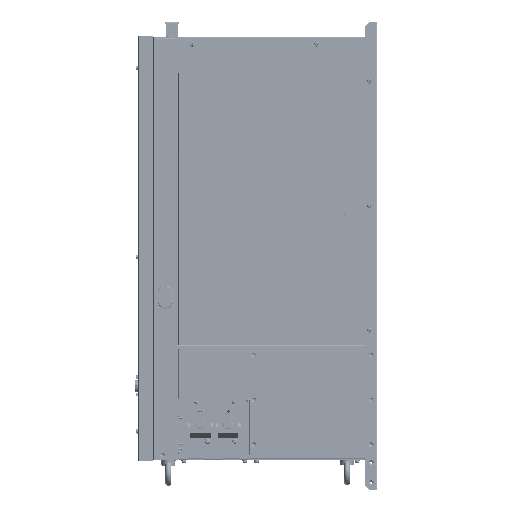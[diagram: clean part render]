
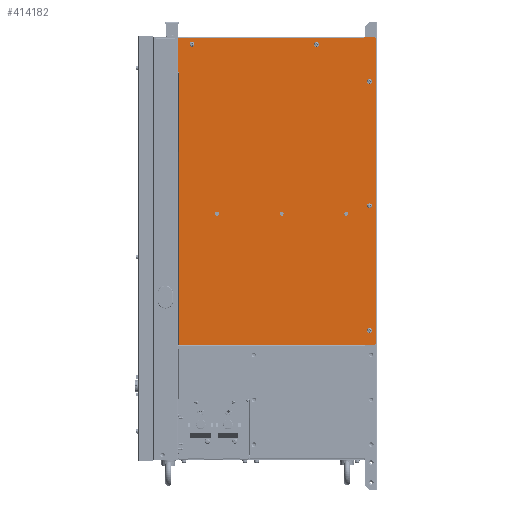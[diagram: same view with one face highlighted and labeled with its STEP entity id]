
A CAD part, left-side view. The second image highlights one B-rep face of the part: STEP entity #414182.
In plain terms, the highlighted planar face has unit normal (-1, 0, 0).
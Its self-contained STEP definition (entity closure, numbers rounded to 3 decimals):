
#23560=FACE_BOUND('',#68483,.T.);
#23561=FACE_BOUND('',#68484,.T.);
#23562=FACE_BOUND('',#68485,.T.);
#23563=FACE_BOUND('',#68486,.T.);
#23564=FACE_BOUND('',#68487,.T.);
#23565=FACE_BOUND('',#68488,.T.);
#23566=FACE_BOUND('',#68489,.T.);
#23567=FACE_BOUND('',#68490,.T.);
#43270=FACE_OUTER_BOUND('',#68482,.T.);
#68482=EDGE_LOOP('',(#361851,#361852,#361853,#361854,#361855,#361856,#361857,
#361858,#361859,#361860,#361861,#361862,#361863,#361864,#361865));
#68483=EDGE_LOOP('',(#361866));
#68484=EDGE_LOOP('',(#361867));
#68485=EDGE_LOOP('',(#361868));
#68486=EDGE_LOOP('',(#361869));
#68487=EDGE_LOOP('',(#361870));
#68488=EDGE_LOOP('',(#361871));
#68489=EDGE_LOOP('',(#361872));
#68490=EDGE_LOOP('',(#361873));
#110957=LINE('',#711854,#154372);
#110958=LINE('',#711856,#154373);
#110959=LINE('',#711858,#154374);
#110960=LINE('',#711860,#154375);
#110961=LINE('',#711862,#154376);
#110962=LINE('',#711866,#154377);
#110963=LINE('',#711868,#154378);
#110964=LINE('',#711870,#154379);
#110965=LINE('',#711873,#154380);
#110966=LINE('',#711875,#154381);
#110967=LINE('',#711879,#154382);
#110968=LINE('',#711880,#154383);
#154372=VECTOR('',#539482,4.243);
#154373=VECTOR('',#539483,613.3);
#154374=VECTOR('',#539484,4.243);
#154375=VECTOR('',#539485,20.5);
#154376=VECTOR('',#539486,0.75);
#154377=VECTOR('',#539489,372.95);
#154378=VECTOR('',#539490,68.5);
#154379=VECTOR('',#539491,0.75);
#154380=VECTOR('',#539494,547.05);
#154381=VECTOR('',#539495,371.45);
#154382=VECTOR('',#539498,0.75);
#154383=VECTOR('',#539499,20.5);
#166461=CIRCLE('',#444308,3.5);
#166462=CIRCLE('',#444310,0.75);
#166463=CIRCLE('',#444311,0.75);
#166464=CIRCLE('',#444312,0.75);
#166465=CIRCLE('',#444313,3.5);
#166466=CIRCLE('',#444314,3.5);
#166467=CIRCLE('',#444315,3.5);
#166468=CIRCLE('',#444316,3.5);
#166469=CIRCLE('',#444317,4.1);
#166470=CIRCLE('',#444318,4.1);
#166471=CIRCLE('',#444319,4.1);
#200504=VERTEX_POINT('',#711781);
#200532=VERTEX_POINT('',#711848);
#200533=VERTEX_POINT('',#711852);
#200534=VERTEX_POINT('',#711853);
#200535=VERTEX_POINT('',#711855);
#200536=VERTEX_POINT('',#711857);
#200537=VERTEX_POINT('',#711859);
#200538=VERTEX_POINT('',#711861);
#200539=VERTEX_POINT('',#711863);
#200540=VERTEX_POINT('',#711865);
#200541=VERTEX_POINT('',#711867);
#200542=VERTEX_POINT('',#711869);
#200543=VERTEX_POINT('',#711871);
#200544=VERTEX_POINT('',#711874);
#200545=VERTEX_POINT('',#711876);
#200546=VERTEX_POINT('',#711878);
#200547=VERTEX_POINT('',#711881);
#200548=VERTEX_POINT('',#711883);
#200549=VERTEX_POINT('',#711885);
#200550=VERTEX_POINT('',#711887);
#200551=VERTEX_POINT('',#711889);
#200552=VERTEX_POINT('',#711891);
#200553=VERTEX_POINT('',#711893);
#255130=EDGE_CURVE('',#200532,#200532,#166461,.T.);
#255131=EDGE_CURVE('',#200533,#200534,#110957,.T.);
#255132=EDGE_CURVE('',#200534,#200535,#110958,.T.);
#255133=EDGE_CURVE('',#200535,#200536,#110959,.T.);
#255134=EDGE_CURVE('',#200536,#200537,#110960,.T.);
#255135=EDGE_CURVE('',#200537,#200538,#110961,.T.);
#255136=EDGE_CURVE('',#200538,#200539,#166462,.T.);
#255137=EDGE_CURVE('',#200539,#200540,#110962,.T.);
#255138=EDGE_CURVE('',#200540,#200541,#110963,.T.);
#255139=EDGE_CURVE('',#200541,#200542,#110964,.T.);
#255140=EDGE_CURVE('',#200542,#200543,#166463,.T.);
#255141=EDGE_CURVE('',#200543,#200504,#110965,.T.);
#255142=EDGE_CURVE('',#200504,#200544,#110966,.T.);
#255143=EDGE_CURVE('',#200545,#200544,#166464,.T.);
#255144=EDGE_CURVE('',#200546,#200545,#110967,.T.);
#255145=EDGE_CURVE('',#200546,#200533,#110968,.T.);
#255146=EDGE_CURVE('',#200547,#200547,#166465,.T.);
#255147=EDGE_CURVE('',#200548,#200548,#166466,.T.);
#255148=EDGE_CURVE('',#200549,#200549,#166467,.T.);
#255149=EDGE_CURVE('',#200550,#200550,#166468,.T.);
#255150=EDGE_CURVE('',#200551,#200551,#166469,.T.);
#255151=EDGE_CURVE('',#200552,#200552,#166470,.T.);
#255152=EDGE_CURVE('',#200553,#200553,#166471,.T.);
#361851=ORIENTED_EDGE('',*,*,#255131,.T.);
#361852=ORIENTED_EDGE('',*,*,#255132,.T.);
#361853=ORIENTED_EDGE('',*,*,#255133,.T.);
#361854=ORIENTED_EDGE('',*,*,#255134,.T.);
#361855=ORIENTED_EDGE('',*,*,#255135,.T.);
#361856=ORIENTED_EDGE('',*,*,#255136,.T.);
#361857=ORIENTED_EDGE('',*,*,#255137,.T.);
#361858=ORIENTED_EDGE('',*,*,#255138,.T.);
#361859=ORIENTED_EDGE('',*,*,#255139,.T.);
#361860=ORIENTED_EDGE('',*,*,#255140,.T.);
#361861=ORIENTED_EDGE('',*,*,#255141,.T.);
#361862=ORIENTED_EDGE('',*,*,#255142,.T.);
#361863=ORIENTED_EDGE('',*,*,#255143,.F.);
#361864=ORIENTED_EDGE('',*,*,#255144,.F.);
#361865=ORIENTED_EDGE('',*,*,#255145,.T.);
#361866=ORIENTED_EDGE('',*,*,#255146,.F.);
#361867=ORIENTED_EDGE('',*,*,#255147,.F.);
#361868=ORIENTED_EDGE('',*,*,#255148,.F.);
#361869=ORIENTED_EDGE('',*,*,#255149,.F.);
#361870=ORIENTED_EDGE('',*,*,#255130,.F.);
#361871=ORIENTED_EDGE('',*,*,#255150,.T.);
#361872=ORIENTED_EDGE('',*,*,#255151,.T.);
#361873=ORIENTED_EDGE('',*,*,#255152,.T.);
#392980=PLANE('',#444309);
#414182=ADVANCED_FACE('',(#43270,#23560,#23561,#23562,#23563,#23564,#23565,
#23566,#23567),#392980,.T.);
#444308=AXIS2_PLACEMENT_3D('',#711850,#539478,#539479);
#444309=AXIS2_PLACEMENT_3D('',#711851,#539480,#539481);
#444310=AXIS2_PLACEMENT_3D('',#711864,#539487,#539488);
#444311=AXIS2_PLACEMENT_3D('',#711872,#539492,#539493);
#444312=AXIS2_PLACEMENT_3D('',#711877,#539496,#539497);
#444313=AXIS2_PLACEMENT_3D('',#711882,#539500,#539501);
#444314=AXIS2_PLACEMENT_3D('',#711884,#539502,#539503);
#444315=AXIS2_PLACEMENT_3D('',#711886,#539504,#539505);
#444316=AXIS2_PLACEMENT_3D('',#711888,#539506,#539507);
#444317=AXIS2_PLACEMENT_3D('',#711890,#539508,#539509);
#444318=AXIS2_PLACEMENT_3D('',#711892,#539510,#539511);
#444319=AXIS2_PLACEMENT_3D('',#711894,#539512,#539513);
#539478=DIRECTION('center_axis',(-1.,0.,0.));
#539479=DIRECTION('ref_axis',(0.,0.,-1.));
#539480=DIRECTION('center_axis',(-1.,0.,0.));
#539481=DIRECTION('ref_axis',(0.,0.,1.));
#539482=DIRECTION('',(0.,-0.707,0.707));
#539483=DIRECTION('',(0.,0.,1.));
#539484=DIRECTION('',(0.,0.707,0.707));
#539485=DIRECTION('',(0.,1.,0.));
#539486=DIRECTION('',(0.,0.,-1.));
#539487=DIRECTION('center_axis',(1.,0.,0.));
#539488=DIRECTION('ref_axis',(0.,-1.,0.));
#539489=DIRECTION('',(0.,1.,0.));
#539490=DIRECTION('',(0.,0.,-1.));
#539491=DIRECTION('',(0.,-1.,0.));
#539492=DIRECTION('center_axis',(1.,0.,0.));
#539493=DIRECTION('ref_axis',(0.,0.,1.));
#539494=DIRECTION('',(0.,0.,-1.));
#539495=DIRECTION('',(0.,-1.,0.));
#539496=DIRECTION('center_axis',(-1.,0.,0.));
#539497=DIRECTION('ref_axis',(0.,-1.,0.));
#539498=DIRECTION('',(0.,0.,1.));
#539499=DIRECTION('',(0.,-1.,0.));
#539500=DIRECTION('center_axis',(-1.,0.,0.));
#539501=DIRECTION('ref_axis',(0.,0.,-1.));
#539502=DIRECTION('center_axis',(-1.,0.,0.));
#539503=DIRECTION('ref_axis',(0.,0.,-1.));
#539504=DIRECTION('center_axis',(-1.,0.,0.));
#539505=DIRECTION('ref_axis',(0.,0.,-1.));
#539506=DIRECTION('center_axis',(-1.,0.,0.));
#539507=DIRECTION('ref_axis',(0.,0.,-1.));
#539508=DIRECTION('center_axis',(1.,0.,0.));
#539509=DIRECTION('ref_axis',(0.,0.,1.));
#539510=DIRECTION('center_axis',(1.,0.,0.));
#539511=DIRECTION('ref_axis',(0.,0.,1.));
#539512=DIRECTION('center_axis',(1.,0.,0.));
#539513=DIRECTION('ref_axis',(0.,0.,1.));
#711781=CARTESIAN_POINT('',(-180.,398.2,-177.8));
#711848=CARTESIAN_POINT('',(-180.,16.,-145.8));
#711850=CARTESIAN_POINT('Origin',(-180.,16.,-149.3));
#711851=CARTESIAN_POINT('Origin',(-180.,-89.591,-294.695));
#711852=CARTESIAN_POINT('',(-180.,5.5,-179.3));
#711853=CARTESIAN_POINT('',(-180.,2.5,-176.3));
#711854=CARTESIAN_POINT('',(-180.,5.5,-179.3));
#711855=CARTESIAN_POINT('',(-180.,2.5,437.));
#711856=CARTESIAN_POINT('',(-180.,2.5,-176.3));
#711857=CARTESIAN_POINT('',(-180.,5.5,440.));
#711858=CARTESIAN_POINT('',(-180.,2.5,437.));
#711859=CARTESIAN_POINT('',(-180.,26.,440.));
#711860=CARTESIAN_POINT('',(-180.,5.5,440.));
#711861=CARTESIAN_POINT('',(-180.,26.,439.25));
#711862=CARTESIAN_POINT('',(-180.,26.,440.));
#711863=CARTESIAN_POINT('',(-180.,26.75,438.5));
#711864=CARTESIAN_POINT('Origin',(-180.,26.75,439.25));
#711865=CARTESIAN_POINT('',(-180.,399.7,438.5));
#711866=CARTESIAN_POINT('',(-180.,26.75,438.5));
#711867=CARTESIAN_POINT('',(-180.,399.7,370.));
#711868=CARTESIAN_POINT('',(-180.,399.7,438.5));
#711869=CARTESIAN_POINT('',(-180.,398.95,370.));
#711870=CARTESIAN_POINT('',(-180.,399.7,370.));
#711871=CARTESIAN_POINT('',(-180.,398.2,369.25));
#711872=CARTESIAN_POINT('Origin',(-180.,398.95,369.25));
#711873=CARTESIAN_POINT('',(-180.,398.2,369.25));
#711874=CARTESIAN_POINT('',(-180.,26.75,-177.8));
#711875=CARTESIAN_POINT('',(-180.,398.2,-177.8));
#711876=CARTESIAN_POINT('',(-180.,26.,-178.55));
#711877=CARTESIAN_POINT('Origin',(-180.,26.75,-178.55));
#711878=CARTESIAN_POINT('',(-180.,26.,-179.3));
#711879=CARTESIAN_POINT('',(-180.,26.,-179.3));
#711880=CARTESIAN_POINT('',(-180.,26.,-179.3));
#711881=CARTESIAN_POINT('',(-180.,16.,104.2));
#711882=CARTESIAN_POINT('Origin',(-180.,16.,100.7));
#711883=CARTESIAN_POINT('',(-180.,16.,354.2));
#711884=CARTESIAN_POINT('Origin',(-180.,16.,350.7));
#711885=CARTESIAN_POINT('',(-180.,122.5,428.5));
#711886=CARTESIAN_POINT('Origin',(-180.,122.5,425.));
#711887=CARTESIAN_POINT('',(-180.,372.5,428.5));
#711888=CARTESIAN_POINT('Origin',(-180.,372.5,425.));
#711889=CARTESIAN_POINT('',(-180.,62.5,89.1));
#711890=CARTESIAN_POINT('Origin',(-180.,62.5,85.));
#711891=CARTESIAN_POINT('',(-180.,192.5,89.1));
#711892=CARTESIAN_POINT('Origin',(-180.,192.5,85.));
#711893=CARTESIAN_POINT('',(-180.,322.5,89.1));
#711894=CARTESIAN_POINT('Origin',(-180.,322.5,85.));
